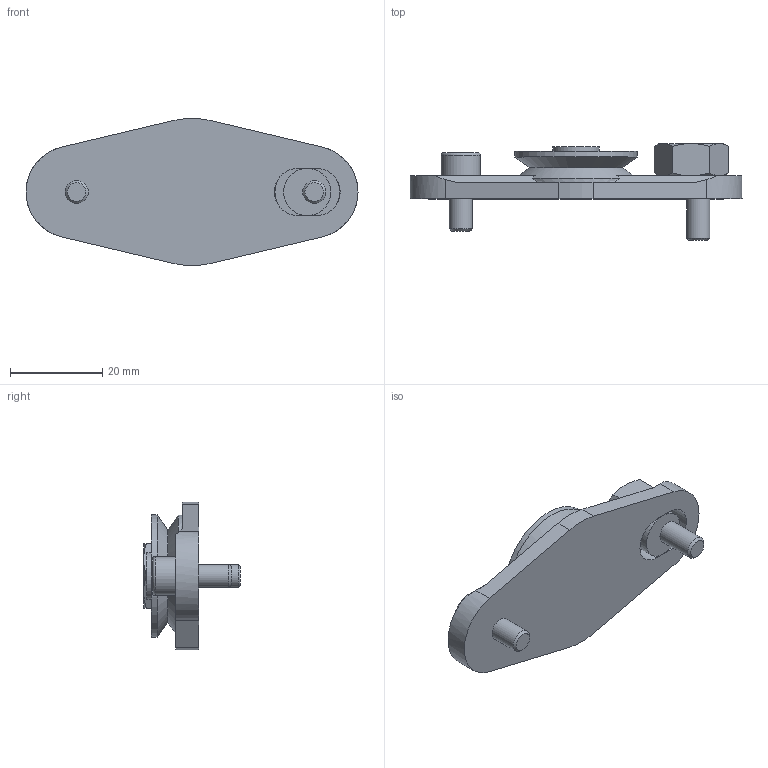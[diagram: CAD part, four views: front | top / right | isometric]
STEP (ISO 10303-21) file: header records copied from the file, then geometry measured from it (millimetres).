
FILE_DESCRIPTION( ( 'STEP AP203' ), '1' );
FILE_NAME( 'p:/temp/worker_50/temp/exporttempdir_3836_48_h3pmp/format_0/GBHJ265E.stp', '2021-09-29T06:42:40', ( 'License CC BY-ND 4.0' ), ( 'CADENAS' ), ' ', 'PARTsolutions', ' ' );
FILE_SCHEMA( ( 'CONFIG_CONTROL_DESIGN' ) );
Length unit declared in the file: millimetre
Products named in the file (4): GBHJ265E; _GBHJ265E_E; _GBHJ265E_SE; HI_7_16_DIN912-M5x12
Assembly tree (3 placements, depth 2):
  GBHJ265E
    _GBHJ265E_E
    _GBHJ265E_SE
    HI_7_16_DIN912-M5x12
Bounding box: 72 x 21 x 31.9 mm (x, y, z)
Volume: 12212 mm3; surface area: 6375 mm2
Topology: 3 solids, 3 shells, 88 faces, 201 edges, 125 vertices
Faces by surface type: plane 46, cone 24, cylinder 15, torus 3
Full cylindrical faces by diameter (mm): 5 x3, 8.5 x2, 10 x1, 10.25 x1, 26.5 x1
Entity records: 2625 total; most frequent: CARTESIAN_POINT 586, DIRECTION 400, ORIENTED_EDGE 364, EDGE_CURVE 182, AXIS2_PLACEMENT_3D 158, VERTEX_POINT 124, EDGE_LOOP 115, FACE_OUTER_BOUND 99
